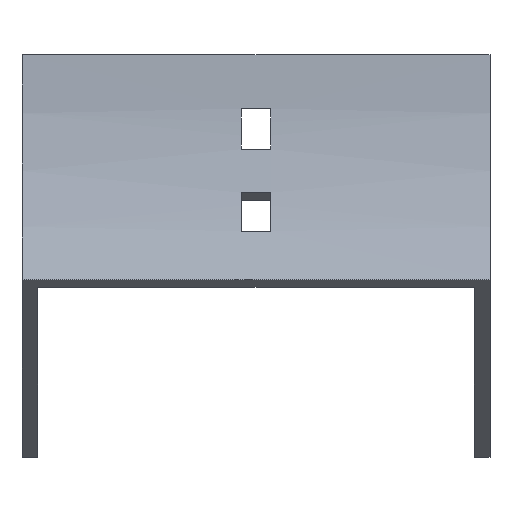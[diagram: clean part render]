
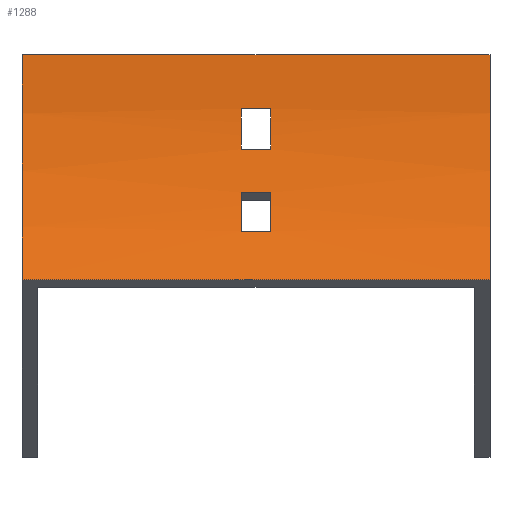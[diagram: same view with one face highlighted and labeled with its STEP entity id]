
A CAD part, front view. The second image highlights one B-rep face of the part: STEP entity #1288.
In plain terms, the highlighted cylindrical face has radius 100 mm (diameter 200 mm), a partial arc.
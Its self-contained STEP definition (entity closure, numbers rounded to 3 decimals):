
#4 = CARTESIAN_POINT ( 'NONE',  ( 52., -2.23, -21. ) ) ;
#53 = CYLINDRICAL_SURFACE ( 'NONE', #375, 100. ) ;
#59 = VECTOR ( 'NONE', #201, 1000. ) ;
#62 = VERTEX_POINT ( 'NONE', #363 ) ;
#64 = VECTOR ( 'NONE', #485, 1000. ) ;
#70 = DIRECTION ( 'NONE',  ( 0., 0., -1. ) ) ;
#75 = DIRECTION ( 'NONE',  ( 0., 0., 1. ) ) ;
#87 = CARTESIAN_POINT ( 'NONE',  ( -52., -13.397, -50. ) ) ;
#90 = ORIENTED_EDGE ( 'NONE', *, *, #585, .F. ) ;
#92 = VERTEX_POINT ( 'NONE', #1259 ) ;
#100 = ORIENTED_EDGE ( 'NONE', *, *, #1071, .F. ) ;
#114 = VECTOR ( 'NONE', #1047, 1000. ) ;
#133 = EDGE_CURVE ( 'NONE', #287, #588, #618, .T. ) ;
#162 = CARTESIAN_POINT ( 'NONE',  ( 52., -0.723, -12. ) ) ;
#201 = DIRECTION ( 'NONE',  ( -1., 0., 0. ) ) ;
#202 = VERTEX_POINT ( 'NONE', #1063 ) ;
#212 = EDGE_CURVE ( 'NONE', #772, #491, #1362, .T. ) ;
#238 = CARTESIAN_POINT ( 'NONE',  ( -52., 0., 0. ) ) ;
#247 = AXIS2_PLACEMENT_3D ( 'NONE', #570, #1220, #70 ) ;
#287 = VERTEX_POINT ( 'NONE', #1686 ) ;
#294 = EDGE_CURVE ( 'NONE', #1346, #588, #1043, .T. ) ;
#303 = AXIS2_PLACEMENT_3D ( 'NONE', #846, #1094, #1215 ) ;
#307 = AXIS2_PLACEMENT_3D ( 'NONE', #824, #1195, #944 ) ;
#353 = VECTOR ( 'NONE', #1635, 1000. ) ;
#361 = DIRECTION ( 'NONE',  ( 1., 0., 0. ) ) ;
#363 = CARTESIAN_POINT ( 'NONE',  ( -3.25, -4.829, -30.699 ) ) ;
#375 = AXIS2_PLACEMENT_3D ( 'NONE', #1103, #1618, #75 ) ;
#382 = CARTESIAN_POINT ( 'NONE',  ( -3.25, -0.723, -12. ) ) ;
#391 = EDGE_CURVE ( 'NONE', #686, #202, #554, .T. ) ;
#403 = EDGE_LOOP ( 'NONE', ( #1581, #1603, #100, #779 ) ) ;
#431 = VECTOR ( 'NONE', #888, 1000. ) ;
#469 = ORIENTED_EDGE ( 'NONE', *, *, #212, .F. ) ;
#485 = DIRECTION ( 'NONE',  ( -1., 0., 0. ) ) ;
#488 = AXIS2_PLACEMENT_3D ( 'NONE', #899, #1514, #1015 ) ;
#491 = VERTEX_POINT ( 'NONE', #1093 ) ;
#498 = ORIENTED_EDGE ( 'NONE', *, *, #990, .F. ) ;
#527 = DIRECTION ( 'NONE',  ( -1., 0., 0. ) ) ;
#554 = LINE ( 'NONE', #4, #1119 ) ;
#570 = CARTESIAN_POINT ( 'NONE',  ( -3.25, -100., 0. ) ) ;
#585 = EDGE_CURVE ( 'NONE', #865, #772, #1035, .T. ) ;
#586 = ORIENTED_EDGE ( 'NONE', *, *, #391, .T. ) ;
#588 = VERTEX_POINT ( 'NONE', #87 ) ;
#590 = FACE_OUTER_BOUND ( 'NONE', #403, .T. ) ;
#598 = CARTESIAN_POINT ( 'NONE',  ( 3.25, -100., 0. ) ) ;
#618 = LINE ( 'NONE', #1661, #64 ) ;
#628 = EDGE_CURVE ( 'NONE', #202, #1494, #998, .T. ) ;
#686 = VERTEX_POINT ( 'NONE', #1382 ) ;
#733 = FACE_BOUND ( 'NONE', #1329, .T. ) ;
#737 = FACE_BOUND ( 'NONE', #1100, .T. ) ;
#752 = DIRECTION ( 'NONE',  ( 0., 0., 1. ) ) ;
#772 = VERTEX_POINT ( 'NONE', #1474 ) ;
#779 = ORIENTED_EDGE ( 'NONE', *, *, #1558, .T. ) ;
#811 = CARTESIAN_POINT ( 'NONE',  ( -3.25, -8.023, -39.246 ) ) ;
#824 = CARTESIAN_POINT ( 'NONE',  ( 3.25, -100., 0. ) ) ;
#846 = CARTESIAN_POINT ( 'NONE',  ( 52., -100., 0. ) ) ;
#862 = LINE ( 'NONE', #1508, #353 ) ;
#865 = VERTEX_POINT ( 'NONE', #811 ) ;
#888 = DIRECTION ( 'NONE',  ( 1., 0., 0. ) ) ;
#899 = CARTESIAN_POINT ( 'NONE',  ( -52., -100., 0. ) ) ;
#944 = DIRECTION ( 'NONE',  ( 0., 0., 1. ) ) ;
#959 = VERTEX_POINT ( 'NONE', #967 ) ;
#963 = LINE ( 'NONE', #162, #114 ) ;
#967 = CARTESIAN_POINT ( 'NONE',  ( 52., 0., 0. ) ) ;
#990 = EDGE_CURVE ( 'NONE', #491, #62, #862, .T. ) ;
#997 = ORIENTED_EDGE ( 'NONE', *, *, #628, .T. ) ;
#998 = CIRCLE ( 'NONE', #1295, 100. ) ;
#1001 = CIRCLE ( 'NONE', #247, 100. ) ;
#1015 = DIRECTION ( 'NONE',  ( 0., 0., 1. ) ) ;
#1035 = LINE ( 'NONE', #1383, #431 ) ;
#1043 = CIRCLE ( 'NONE', #488, 100. ) ;
#1047 = DIRECTION ( 'NONE',  ( 1., 0., 0. ) ) ;
#1063 = CARTESIAN_POINT ( 'NONE',  ( -3.25, -2.23, -21. ) ) ;
#1071 = EDGE_CURVE ( 'NONE', #959, #287, #1496, .T. ) ;
#1072 = ORIENTED_EDGE ( 'NONE', *, *, #1105, .T. ) ;
#1093 = CARTESIAN_POINT ( 'NONE',  ( 3.25, -4.829, -30.699 ) ) ;
#1094 = DIRECTION ( 'NONE',  ( -1., 0., 0. ) ) ;
#1100 = EDGE_LOOP ( 'NONE', ( #586, #997, #1072, #1365 ) ) ;
#1103 = CARTESIAN_POINT ( 'NONE',  ( 52., -100., 0. ) ) ;
#1105 = EDGE_CURVE ( 'NONE', #1494, #92, #963, .T. ) ;
#1119 = VECTOR ( 'NONE', #527, 1000. ) ;
#1142 = ORIENTED_EDGE ( 'NONE', *, *, #1269, .F. ) ;
#1195 = DIRECTION ( 'NONE',  ( 1., 0., 0. ) ) ;
#1204 = AXIS2_PLACEMENT_3D ( 'NONE', #598, #1339, #1632 ) ;
#1215 = DIRECTION ( 'NONE',  ( 0., 0., 1. ) ) ;
#1220 = DIRECTION ( 'NONE',  ( -1., 0., 0. ) ) ;
#1259 = CARTESIAN_POINT ( 'NONE',  ( 3.25, -0.723, -12. ) ) ;
#1269 = EDGE_CURVE ( 'NONE', #62, #865, #1001, .T. ) ;
#1284 = EDGE_CURVE ( 'NONE', #92, #686, #1560, .T. ) ;
#1288 = ADVANCED_FACE ( 'NONE', ( #590, #737, #733 ), #53, .F. ) ;
#1295 = AXIS2_PLACEMENT_3D ( 'NONE', #1513, #361, #752 ) ;
#1329 = EDGE_LOOP ( 'NONE', ( #1142, #498, #469, #90 ) ) ;
#1339 = DIRECTION ( 'NONE',  ( -1., 0., 0. ) ) ;
#1346 = VERTEX_POINT ( 'NONE', #238 ) ;
#1354 = LINE ( 'NONE', #1649, #59 ) ;
#1362 = CIRCLE ( 'NONE', #307, 100. ) ;
#1365 = ORIENTED_EDGE ( 'NONE', *, *, #1284, .T. ) ;
#1382 = CARTESIAN_POINT ( 'NONE',  ( 3.25, -2.23, -21. ) ) ;
#1383 = CARTESIAN_POINT ( 'NONE',  ( 52., -8.023, -39.246 ) ) ;
#1474 = CARTESIAN_POINT ( 'NONE',  ( 3.25, -8.023, -39.246 ) ) ;
#1494 = VERTEX_POINT ( 'NONE', #382 ) ;
#1496 = CIRCLE ( 'NONE', #303, 100. ) ;
#1508 = CARTESIAN_POINT ( 'NONE',  ( 52., -4.829, -30.699 ) ) ;
#1513 = CARTESIAN_POINT ( 'NONE',  ( -3.25, -100., 0. ) ) ;
#1514 = DIRECTION ( 'NONE',  ( -1., 0., 0. ) ) ;
#1558 = EDGE_CURVE ( 'NONE', #959, #1346, #1354, .T. ) ;
#1560 = CIRCLE ( 'NONE', #1204, 100. ) ;
#1581 = ORIENTED_EDGE ( 'NONE', *, *, #294, .T. ) ;
#1603 = ORIENTED_EDGE ( 'NONE', *, *, #133, .F. ) ;
#1618 = DIRECTION ( 'NONE',  ( -1., 0., 0. ) ) ;
#1632 = DIRECTION ( 'NONE',  ( 0., 0., -1. ) ) ;
#1635 = DIRECTION ( 'NONE',  ( -1., 0., 0. ) ) ;
#1649 = CARTESIAN_POINT ( 'NONE',  ( 52., 0., 0. ) ) ;
#1661 = CARTESIAN_POINT ( 'NONE',  ( 52., -13.397, -50. ) ) ;
#1686 = CARTESIAN_POINT ( 'NONE',  ( 52., -13.397, -50. ) ) ;
